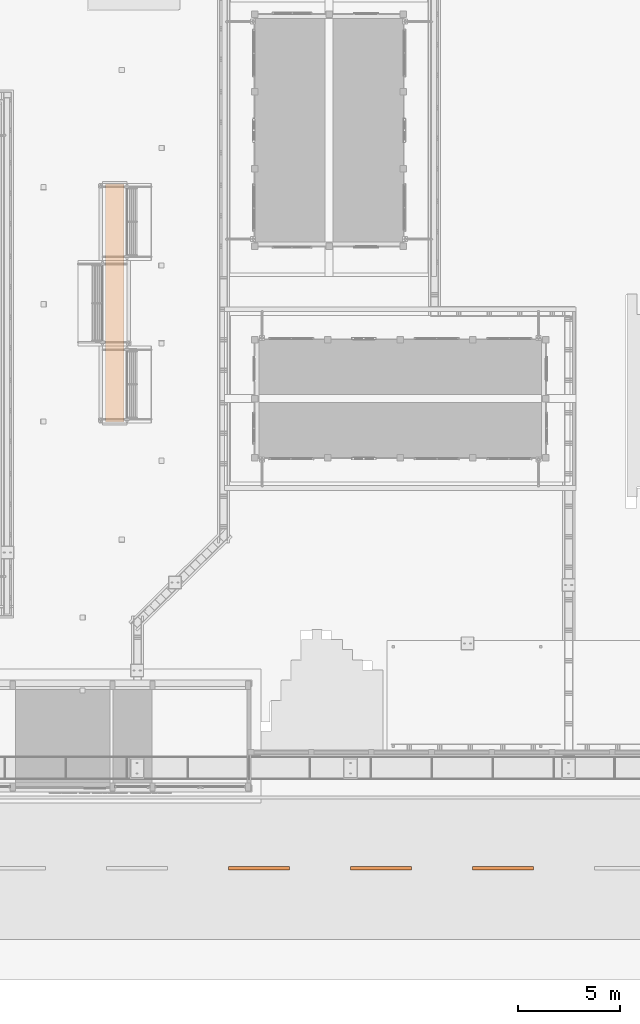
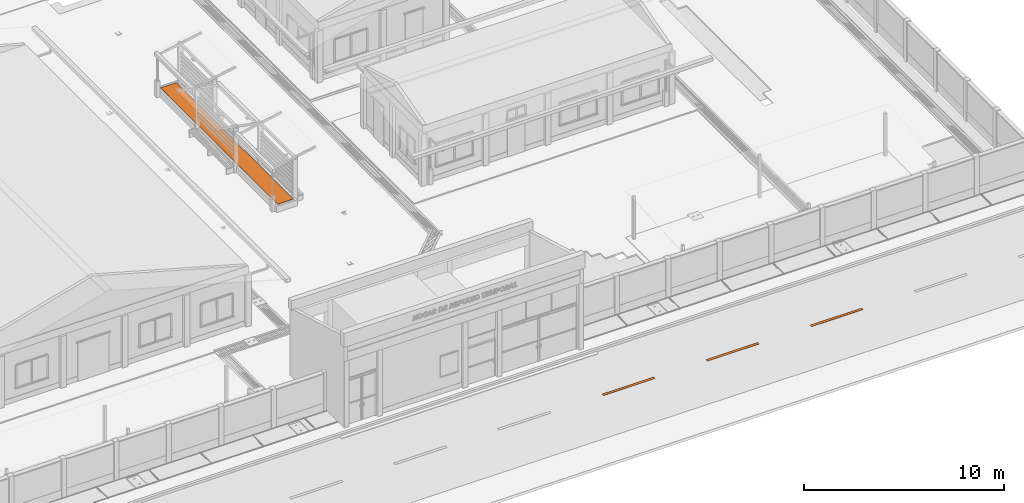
# One storey, part 146 of 151: 4 proxies.
"""IFC2X3 building model written with IfcOpenShell, lengths in metres."""

from ifc_helpers import new_model, si_unit, origin, origin_with_axes, place, context, subcontext, project, spatial, faceted_brep, element, save


model = new_model("IFC2X3")

# Units and contexts
model_context = context("Model", 3, precision=1e-05, world=origin_with_axes())
body_context = subcontext(model_context, "Body", "Model", "MODEL_VIEW")
ifc_project = project(units=[si_unit("LENGTHUNIT", "METRE"), si_unit("AREAUNIT", "SQUARE_METRE"), si_unit("VOLUMEUNIT", "CUBIC_METRE"), si_unit("PLANEANGLEUNIT", "RADIAN")], contexts=[model_context])

# Site, building, storey
site_placement = place(None, origin_with_axes())
site = spatial("IfcSite", under=ifc_project, at=site_placement, Name="Predio Los Mangos - Morales, San Martín", CompositionType="ELEMENT")
building_placement = place(site_placement, origin())
building = spatial("IfcBuilding", under=site, at=building_placement, Name="Hogar de Refugio Temporal", CompositionType="ELEMENT")
storey_placement = place(building_placement, origin())
storey = spatial("IfcBuildingStorey", under=building, at=storey_placement, Name="NIVEL 1 (NPT +0.00)", CompositionType="ELEMENT", Elevation=0.0)

# Proxies
proxy_1_placement = place(storey_placement, origin())
element("IfcBuildingElementProxy", 1, at=proxy_1_placement, inside=storey, Name="linea_carril", ObjectType="Losa deportiva y vía", context=body_context, shape_type="Brep", body=[
    faceted_brep([(44.0, 12.22, 0.02), (44.0, 12.38, 0.02), (47.0, 12.38, 0.02), (47.0, 12.22, 0.02), (44.0, 12.22, 0.025), (47.0, 12.22, 0.025), (47.0, 12.38, 0.025), (44.0, 12.38, 0.025)], [[[0, 1, 2, 3]], [[4, 5, 6, 7]], [[0, 3, 5, 4]], [[3, 2, 6, 5]], [[2, 1, 7, 6]], [[1, 0, 4, 7]]]),
])
proxy_2_placement = place(storey_placement, origin())
element("IfcBuildingElementProxy", 2, at=proxy_2_placement, inside=storey, Name="linea_carril", ObjectType="Losa deportiva y vía", context=body_context, shape_type="Brep", body=[
    faceted_brep([(50.0, 12.22, 0.02), (50.0, 12.38, 0.02), (53.0, 12.38, 0.02), (53.0, 12.22, 0.02), (50.0, 12.22, 0.025), (53.0, 12.22, 0.025), (53.0, 12.38, 0.025), (50.0, 12.38, 0.025)], [[[0, 1, 2, 3]], [[4, 5, 6, 7]], [[0, 3, 5, 4]], [[3, 2, 6, 5]], [[2, 1, 7, 6]], [[1, 0, 4, 7]]]),
])
proxy_3_placement = place(storey_placement, origin())
element("IfcBuildingElementProxy", 3, at=proxy_3_placement, inside=storey, Name="linea_carril", ObjectType="Losa deportiva y vía", context=body_context, shape_type="Brep", body=[
    faceted_brep([(56.0, 12.22, 0.02), (56.0, 12.38, 0.02), (59.0, 12.38, 0.02), (59.0, 12.22, 0.02), (56.0, 12.22, 0.025), (59.0, 12.22, 0.025), (59.0, 12.38, 0.025), (56.0, 12.38, 0.025)], [[[0, 1, 2, 3]], [[4, 5, 6, 7]], [[0, 3, 5, 4]], [[3, 2, 6, 5]], [[2, 1, 7, 6]], [[1, 0, 4, 7]]]),
])
proxy_4_placement = place(storey_placement, origin())
element("IfcBuildingElementProxy", 4, at=proxy_4_placement, inside=storey, Name="pasto_jardinera_0", ObjectType="Área verde", context=body_context, shape_type="Brep", body=[
    faceted_brep([(37.95, 34.255, 0.455), (37.95, 45.955, 0.455), (37.95, 45.955, 0.435), (37.95, 34.255, 0.435), (38.85, 34.255, 0.455), (38.85, 34.255, 0.435), (38.85, 45.955, 0.455), (38.85, 45.955, 0.435)], [[[0, 1, 2, 3]], [[4, 0, 3, 5]], [[4, 6, 1, 0]], [[5, 3, 2, 7]], [[6, 4, 5, 7]], [[1, 6, 7, 2]]]),
])

save(model, "model.ifc")
